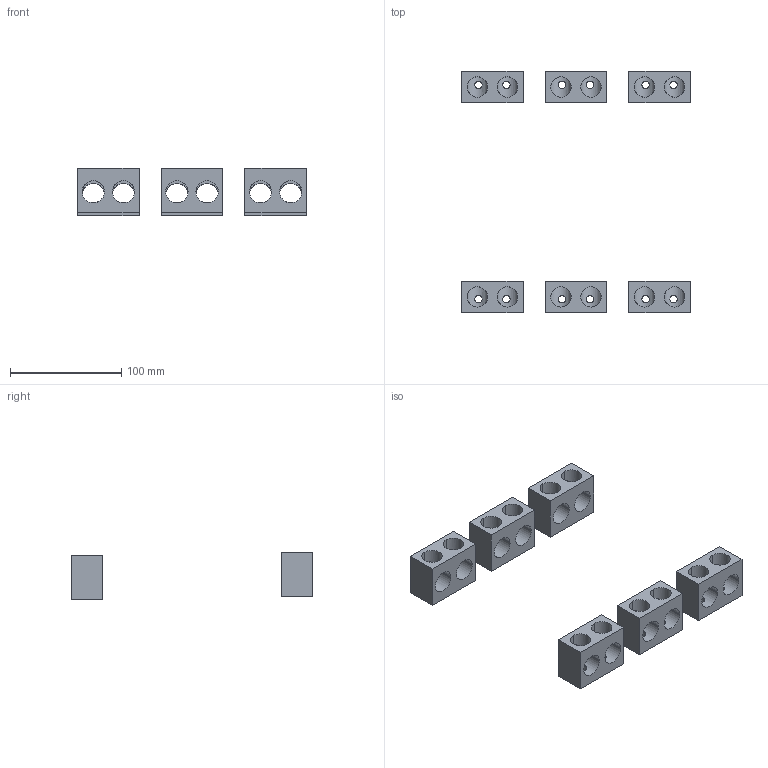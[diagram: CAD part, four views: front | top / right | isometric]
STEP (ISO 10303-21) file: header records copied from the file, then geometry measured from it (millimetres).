
FILE_DESCRIPTION (( 'STEP AP214' ), '1' );
FILE_NAME ('ÂÀ57-39 êîìïëåêò çàæèìîâ 2õ185 (êîëîäêà) (2.44).STEP', '2023-08-07T12:44:12', ( '' ), ( '' ), 'SwSTEP 2.0', 'SolidWorks 2018', '' );
FILE_SCHEMA (( 'AUTOMOTIVE_DESIGN' ));
Length unit declared in the file: millimetre
Products named in the file (1): ÂÀ57-39 êîìïëåêò çàæèìîâ 2õ185 (êîëîäêà) (2.44)
Bounding box: 205 x 216.4 x 42.44 mm (x, y, z)
Volume: 221329.6 mm3; surface area: 75959.5 mm2
Topology: 6 solids, 6 shells, 108 faces, 288 edges, 192 vertices
Faces by surface type: cylinder 72, plane 36
Entity records: 6683 total; most frequent: CARTESIAN_POINT 2569, ORIENTED_EDGE 576, DIRECTION 554, EDGE_CURVE 288, AXIS2_PLACEMENT_3D 205, VERTEX_POINT 192, EDGE_LOOP 180, LINE 144
